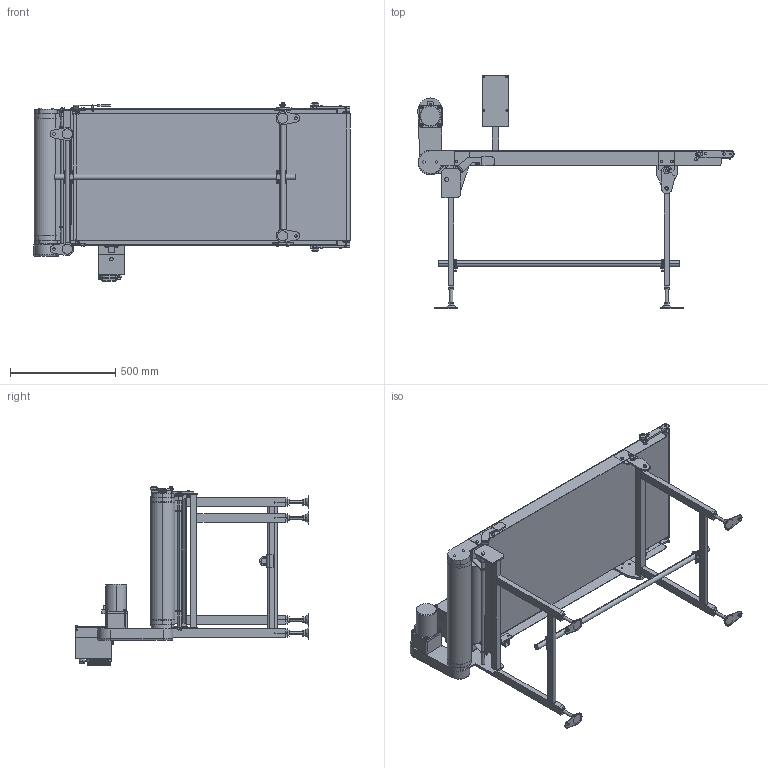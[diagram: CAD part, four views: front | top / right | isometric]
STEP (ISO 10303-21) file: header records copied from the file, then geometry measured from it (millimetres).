
FILE_DESCRIPTION (( 'STEP AP214' ), '1' );
FILE_NAME ('TBH-OD-309-600-150-R-IV-60.STEP', '2023-05-11T00:41:41', ( '' ), ( '' ), 'SwSTEP 2.0', 'SolidWorks 2017', '' );
FILE_SCHEMA (( 'AUTOMOTIVE_DESIGN' ));
Length unit declared in the file: millimetre
Products named in the file (1): TBH-OD-309-600-150-R-IV-60
Bounding box: 1505 x 1111 x 849.6 mm (x, y, z)
Volume: 26130204.4 mm3; surface area: 8171591.3 mm2
Topology: 78 solids, 78 shells, 2489 faces, 6011 edges, 3819 vertices
Faces by surface type: plane 1355, cylinder 720, cone 176, bspline 148, torus 80, sphere 10
Entity records: 78559 total; most frequent: CARTESIAN_POINT 19339, DIRECTION 12224, ORIENTED_EDGE 11974, EDGE_CURVE 5987, AXIS2_PLACEMENT_3D 4371, VERTEX_POINT 3819, VECTOR 3482, LINE 3482
